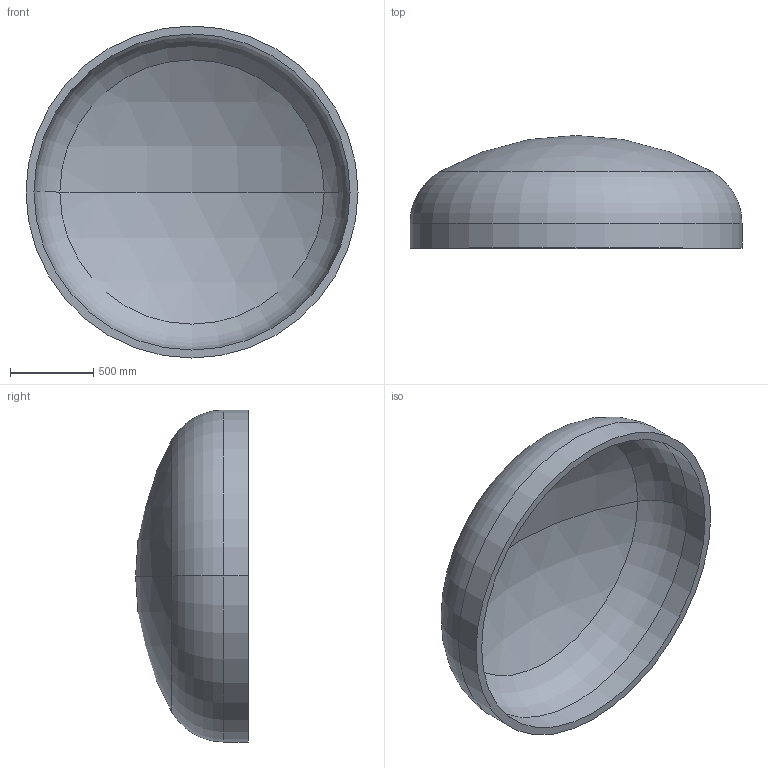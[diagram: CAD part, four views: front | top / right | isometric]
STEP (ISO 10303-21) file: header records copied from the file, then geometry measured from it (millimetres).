
FILE_DESCRIPTION (( 'STEP AP203' ), '1' );
FILE_NAME ('DIN 28013 Korbbogenform_-_Boden DIN 28013 - 2000 x 150 - I - s=48.step', '2016-07-01T13:55:33', ( '' ), ( '' ), 'SwSTEP 2.0', 'SolidWorks 2013', '' );
FILE_SCHEMA (( 'CONFIG_CONTROL_DESIGN' ));
Length unit declared in the file: millimetre
Products named in the file (1): DIN 28013 Korbbogenform_-_Boden DIN 28013 - 2000 x 150 - I - s=48
Bounding box: 2000 x 679.1 x 2000 mm (x, y, z)
Volume: 246789361 mm3; surface area: 10582067.1 mm2
Topology: 1 solids, 1 shells, 13 faces, 24 edges, 14 vertices
Faces by surface type: torus 4, cylinder 4, sphere 4, plane 1
Entity records: 407 total; most frequent: DIRECTION 72, CARTESIAN_POINT 52, ORIENTED_EDGE 48, AXIS2_PLACEMENT_3D 34, EDGE_CURVE 24, CIRCLE 20, EDGE_LOOP 14, VERTEX_POINT 14
